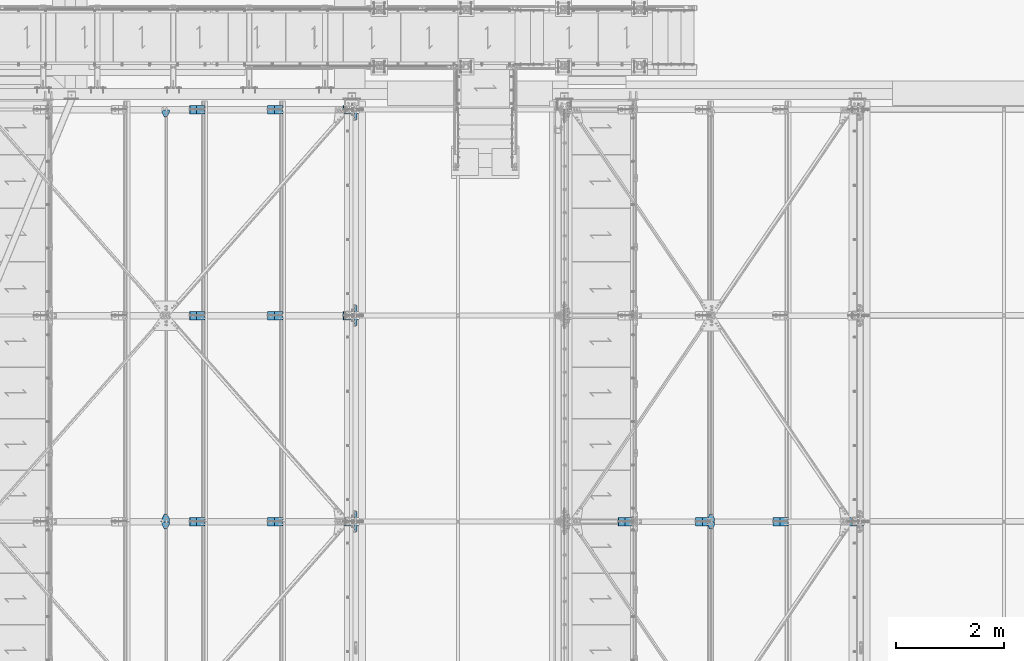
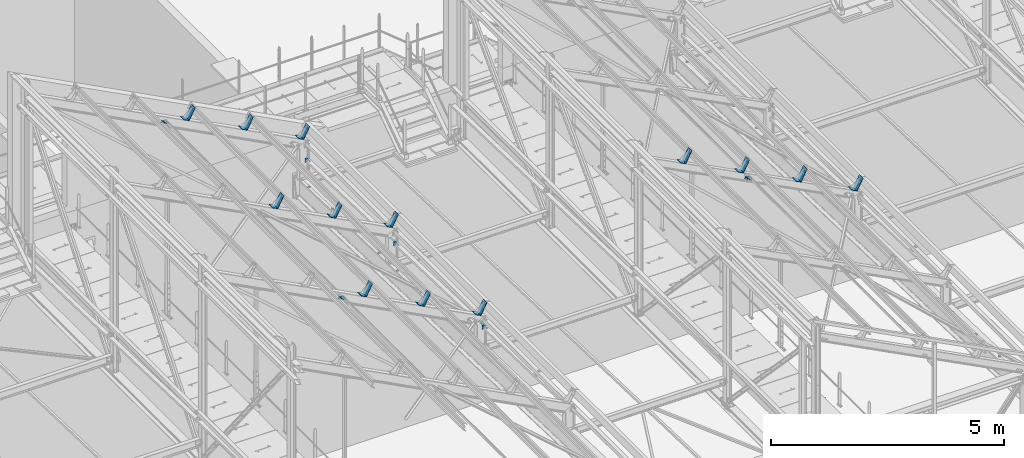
# One storey, part 359 of 362: 23 beams, 23 elements without a shape of their own.
"""IFC2X3 building model written with IfcOpenShell, lengths in millimetres."""

from ifc_helpers import new_model, si_unit, frame, origin_with_axes, place, context, subcontext, project, spatial, faceted_brep, material, type_object, element, aggregate, save


model = new_model("IFC2X3")

# Units and contexts
model_context = context("Model", 3, precision=1e-05, world=origin_with_axes())
body_context = subcontext(model_context, "Body", "Model", "MODEL_VIEW")
ifc_project = project(units=[si_unit("LENGTHUNIT", "METRE", prefix="MILLI"), si_unit("AREAUNIT", "SQUARE_METRE"), si_unit("VOLUMEUNIT", "CUBIC_METRE"), si_unit("MASSUNIT", "GRAM", prefix="KILO"), si_unit("TIMEUNIT", "SECOND"), si_unit("PLANEANGLEUNIT", "RADIAN"), si_unit("SOLIDANGLEUNIT", "STERADIAN"), si_unit("THERMODYNAMICTEMPERATUREUNIT", "DEGREE_CELSIUS"), si_unit("LUMINOUSINTENSITYUNIT", "LUMEN")], contexts=[model_context])

# Site, building, storey
site_placement = place(None, origin_with_axes())
site = spatial("IfcSite", under=ifc_project, at=site_placement, Name="Undefined", CompositionType="ELEMENT")
building_placement = place(site_placement, origin_with_axes())
building = spatial("IfcBuilding", under=site, at=building_placement, Name="Undefined", CompositionType="ELEMENT")
storey_placement = place(building_placement, origin_with_axes())
storey = spatial("IfcBuildingStorey", under=building, at=storey_placement, Name="Undefined", CompositionType="ELEMENT", Elevation=0.0)

# Assembly, beam
assembly_1_placement = place(storey_placement, origin_with_axes())
assembly_1 = element("IfcElementAssembly", 1, at=assembly_1_placement, inside=storey, Name="PANNE SHED", AssemblyPlace="NOTDEFINED", PredefinedType="NOTDEFINED")
ifc_material = material(Name="Undefined/S235-E24")
beam_type_1 = type_object("IfcBeamType", Name="PL10*160", PredefinedType="NOTDEFINED")
beam_1_placement = place(assembly_1_placement, frame((24741.3379399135, 7600.0000408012, 11118.1442296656), z_axis=(0.0, -1.0, 0.0), x_axis=(-0.460093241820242, 0.0, -0.887870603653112)))
beam_1 = element("IfcBeam", 2, at=beam_1_placement, type_object=beam_type_1, material=ifc_material, Name="PANNE SHED", ObjectType="PL10*160", context=body_context, shape_type="Brep", body=[
    faceted_brep([(5.07934601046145e-08, -5.00000000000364, -80.0), (5.081164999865e-08, -5.0, 80.0), (-5.08007360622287e-08, 5.0, 79.9999999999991), (-5.0815287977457e-08, 4.99999999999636, -80.0000000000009), (329.999999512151, 5.00000335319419, 79.99999999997), (329.999999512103, 5.00000335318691, -80.00000000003), (319.999998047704, -4.9999967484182, -80.0000000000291), (319.999998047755, -4.99999674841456, 79.9999999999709), (329.999977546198, -144.999983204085, 79.9999999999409), (329.999977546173, -144.999983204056, -80.0000000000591), (319.999977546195, -144.999981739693, 79.9999999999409), (319.999977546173, -144.999981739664, -80.0000000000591)], [[[0, 1, 2, 3]], [[3, 2, 4, 5]], [[1, 0, 6, 7]], [[5, 4, 8, 9]], [[4, 2, 1, 7, 10, 8]], [[7, 6, 11, 10]], [[6, 0, 3, 5, 9, 11]], [[10, 11, 9, 8]]]),
])
aggregate(assembly_1, [beam_1])

assembly_2_placement = place(storey_placement, origin_with_axes())
assembly_2 = element("IfcElementAssembly", 3, at=assembly_2_placement, inside=storey, Name="PANNE SHED", AssemblyPlace="NOTDEFINED", PredefinedType="NOTDEFINED")
beam_2_placement = place(assembly_2_placement, frame((28981.2587920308, 7600.0000408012, 8921.02348075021), z_axis=(0.0, -1.0, 0.0), x_axis=(-0.460093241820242, 0.0, -0.887870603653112)))
beam_2 = element("IfcBeam", 4, at=beam_2_placement, type_object=beam_type_1, material=ifc_material, Name="PANNE SHED", ObjectType="PL10*160", context=body_context, shape_type="Brep", body=[
    faceted_brep([(5.07934601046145e-08, -5.00000000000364, -80.0), (5.081164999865e-08, -5.0, 80.0), (-5.08007360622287e-08, 5.0, 79.9999999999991), (-5.0815287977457e-08, 4.99999999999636, -80.0000000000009), (329.999999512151, 5.00000335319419, 79.99999999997), (329.999999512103, 5.00000335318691, -80.00000000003), (319.999998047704, -4.9999967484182, -80.0000000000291), (319.999998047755, -4.99999674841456, 79.9999999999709), (329.999977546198, -144.999983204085, 79.9999999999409), (329.999977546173, -144.999983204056, -80.0000000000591), (319.999977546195, -144.999981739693, 79.9999999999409), (319.999977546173, -144.999981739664, -80.0000000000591)], [[[0, 1, 2, 3]], [[3, 2, 4, 5]], [[1, 0, 6, 7]], [[5, 4, 8, 9]], [[4, 2, 1, 7, 10, 8]], [[7, 6, 11, 10]], [[6, 0, 3, 5, 9, 11]], [[10, 11, 9, 8]]]),
])
aggregate(assembly_2, [beam_2])

assembly_3_placement = place(storey_placement, origin_with_axes())
assembly_3 = element("IfcElementAssembly", 5, at=assembly_3_placement, inside=storey, Name="PANNE SHED", AssemblyPlace="NOTDEFINED", PredefinedType="NOTDEFINED")
beam_3_placement = place(assembly_3_placement, frame((27594.5879413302, 7600.0000408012, 9639.5942758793), z_axis=(0.0, -1.0, 0.0), x_axis=(-0.460093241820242, 0.0, -0.887870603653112)))
beam_3 = element("IfcBeam", 6, at=beam_3_placement, type_object=beam_type_1, material=ifc_material, Name="PANNE SHED", ObjectType="PL10*160", context=body_context, shape_type="Brep", body=[
    faceted_brep([(5.07934601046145e-08, -5.00000000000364, -80.0), (5.081164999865e-08, -5.0, 80.0), (-5.08007360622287e-08, 5.0, 79.9999999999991), (-5.0815287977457e-08, 4.99999999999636, -80.0000000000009), (329.999999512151, 5.00000335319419, 79.99999999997), (329.999999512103, 5.00000335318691, -80.00000000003), (319.999998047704, -4.9999967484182, -80.0000000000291), (319.999998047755, -4.99999674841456, 79.9999999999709), (329.999977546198, -144.999983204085, 79.9999999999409), (329.999977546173, -144.999983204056, -80.0000000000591), (319.999977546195, -144.999981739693, 79.9999999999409), (319.999977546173, -144.999981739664, -80.0000000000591)], [[[0, 1, 2, 3]], [[3, 2, 4, 5]], [[1, 0, 6, 7]], [[5, 4, 8, 9]], [[4, 2, 1, 7, 10, 8]], [[7, 6, 11, 10]], [[6, 0, 3, 5, 9, 11]], [[10, 11, 9, 8]]]),
])
aggregate(assembly_3, [beam_3])

assembly_4_placement = place(storey_placement, origin_with_axes())
assembly_4 = element("IfcElementAssembly", 7, at=assembly_4_placement, inside=storey, Name="PANNE SHED", AssemblyPlace="NOTDEFINED", PredefinedType="NOTDEFINED")
beam_4_placement = place(assembly_4_placement, frame((26167.9629406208, 7600.0000408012, 10378.8692527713), z_axis=(0.0, -1.0, 0.0), x_axis=(-0.460093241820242, 0.0, -0.887870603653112)))
beam_4 = element("IfcBeam", 8, at=beam_4_placement, type_object=beam_type_1, material=ifc_material, Name="PANNE SHED", ObjectType="PL10*160", context=body_context, shape_type="Brep", body=[
    faceted_brep([(5.07934601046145e-08, -5.00000000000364, -80.0), (5.081164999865e-08, -5.0, 80.0), (-5.08007360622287e-08, 5.0, 79.9999999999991), (-5.0815287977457e-08, 4.99999999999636, -80.0000000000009), (329.999999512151, 5.00000335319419, 79.99999999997), (329.999999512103, 5.00000335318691, -80.00000000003), (319.999998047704, -4.9999967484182, -80.0000000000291), (319.999998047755, -4.99999674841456, 79.9999999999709), (329.999977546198, -144.999983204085, 79.9999999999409), (329.999977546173, -144.999983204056, -80.0000000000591), (319.999977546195, -144.999981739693, 79.9999999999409), (319.999977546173, -144.999981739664, -80.0000000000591)], [[[0, 1, 2, 3]], [[3, 2, 4, 5]], [[1, 0, 6, 7]], [[5, 4, 8, 9]], [[4, 2, 1, 7, 10, 8]], [[7, 6, 11, 10]], [[6, 0, 3, 5, 9, 11]], [[10, 11, 9, 8]]]),
])
aggregate(assembly_4, [beam_4])

assembly_5_placement = place(storey_placement, origin_with_axes())
assembly_5 = element("IfcElementAssembly", 9, at=assembly_5_placement, inside=storey, Name="PANNE SHED", AssemblyPlace="NOTDEFINED", PredefinedType="NOTDEFINED")
beam_5_placement = place(assembly_5_placement, frame((16836.7918182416, 7600.0000408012, 10404.5379113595), z_axis=(0.0, -1.0, 0.0), x_axis=(-0.463528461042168, 0.0, -0.886082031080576)))
beam_5 = element("IfcBeam", 10, at=beam_5_placement, type_object=beam_type_1, material=ifc_material, Name="PANNE SHED", ObjectType="PL10*160", context=body_context, shape_type="Brep", body=[
    faceted_brep([(5.07934601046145e-08, -5.00000000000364, -80.0), (5.081164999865e-08, -5.0, 80.0), (-5.08007360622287e-08, 5.0, 79.9999999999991), (-5.0815287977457e-08, 4.99999999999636, -80.0000000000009), (329.999999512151, 5.00000335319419, 79.99999999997), (329.999999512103, 5.00000335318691, -80.00000000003), (319.999998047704, -4.9999967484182, -80.0000000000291), (319.999998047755, -4.99999674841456, 79.9999999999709), (330.000011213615, -145.000008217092, 80.0000000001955), (330.000011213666, -145.000008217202, -79.9999999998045), (320.000011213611, -145.000008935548, 80.0000000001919), (320.000011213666, -145.000008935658, -79.9999999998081)], [[[0, 1, 2, 3]], [[3, 2, 4, 5]], [[1, 0, 6, 7]], [[5, 4, 8, 9]], [[4, 2, 1, 7, 10, 8]], [[7, 6, 11, 10]], [[6, 0, 3, 5, 9, 11]], [[10, 11, 9, 8]]]),
])
aggregate(assembly_5, [beam_5])

assembly_6_placement = place(storey_placement, origin_with_axes())
assembly_6 = element("IfcElementAssembly", 11, at=assembly_6_placement, inside=storey, Name="PANNE SHED", AssemblyPlace="NOTDEFINED", PredefinedType="NOTDEFINED")
beam_6_placement = place(assembly_6_placement, frame((18274.0918835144, 7600.0000408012, 9652.65560930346), z_axis=(0.0, -1.0, 0.0), x_axis=(-0.463528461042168, 0.0, -0.886082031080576)))
beam_6 = element("IfcBeam", 12, at=beam_6_placement, type_object=beam_type_1, material=ifc_material, Name="PANNE SHED", ObjectType="PL10*160", context=body_context, shape_type="Brep", body=[
    faceted_brep([(5.07934601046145e-08, -5.00000000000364, -80.0), (5.081164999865e-08, -5.0, 80.0), (-5.08007360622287e-08, 5.0, 79.9999999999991), (-5.0815287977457e-08, 4.99999999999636, -80.0000000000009), (329.999999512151, 5.00000335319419, 79.99999999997), (329.999999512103, 5.00000335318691, -80.00000000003), (319.999998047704, -4.9999967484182, -80.0000000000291), (319.999998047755, -4.99999674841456, 79.9999999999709), (330.000011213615, -145.000008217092, 80.0000000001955), (330.000011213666, -145.000008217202, -79.9999999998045), (320.000011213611, -145.000008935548, 80.0000000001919), (320.000011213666, -145.000008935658, -79.9999999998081)], [[[0, 1, 2, 3]], [[3, 2, 4, 5]], [[1, 0, 6, 7]], [[5, 4, 8, 9]], [[4, 2, 1, 7, 10, 8]], [[7, 6, 11, 10]], [[6, 0, 3, 5, 9, 11]], [[10, 11, 9, 8]]]),
])
aggregate(assembly_6, [beam_6])

assembly_7_placement = place(storey_placement, origin_with_axes())
assembly_7 = element("IfcElementAssembly", 13, at=assembly_7_placement, inside=storey, Name="PANNE SHED", AssemblyPlace="NOTDEFINED", PredefinedType="NOTDEFINED")
beam_7_placement = place(assembly_7_placement, frame((19671.5182330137, 7600.0000408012, 8921.63209792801), z_axis=(0.0, -1.0, 0.0), x_axis=(-0.463528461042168, 0.0, -0.886082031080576)))
beam_7 = element("IfcBeam", 14, at=beam_7_placement, type_object=beam_type_1, material=ifc_material, Name="PANNE SHED", ObjectType="PL10*160", context=body_context, shape_type="Brep", body=[
    faceted_brep([(5.07934601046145e-08, -5.00000000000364, -80.0), (5.081164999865e-08, -5.0, 80.0), (-5.08007360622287e-08, 5.0, 79.9999999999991), (-5.0815287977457e-08, 4.99999999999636, -80.0000000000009), (329.999999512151, 5.00000335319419, 79.99999999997), (329.999999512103, 5.00000335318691, -80.00000000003), (319.999998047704, -4.9999967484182, -80.0000000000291), (319.999998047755, -4.99999674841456, 79.9999999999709), (330.000011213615, -145.000008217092, 80.0000000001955), (330.000011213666, -145.000008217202, -79.9999999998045), (320.000011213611, -145.000008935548, 80.0000000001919), (320.000011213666, -145.000008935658, -79.9999999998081)], [[[0, 1, 2, 3]], [[3, 2, 4, 5]], [[1, 0, 6, 7]], [[5, 4, 8, 9]], [[4, 2, 1, 7, 10, 8]], [[7, 6, 11, 10]], [[6, 0, 3, 5, 9, 11]], [[10, 11, 9, 8]]]),
])
aggregate(assembly_7, [beam_7])

assembly_8_placement = place(storey_placement, origin_with_axes())
assembly_8 = element("IfcElementAssembly", 15, at=assembly_8_placement, inside=storey, Name="PANNE SHED", AssemblyPlace="NOTDEFINED", PredefinedType="NOTDEFINED")
beam_8_placement = place(assembly_8_placement, frame((19671.5182330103, 15200.0000408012, 8921.63209792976), z_axis=(0.0, -1.0, 0.0), x_axis=(-0.463528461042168, 0.0, -0.886082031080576)))
beam_8 = element("IfcBeam", 16, at=beam_8_placement, type_object=beam_type_1, material=ifc_material, Name="PANNE SHED", ObjectType="PL10*160", context=body_context, shape_type="Brep", body=[
    faceted_brep([(5.07934601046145e-08, -5.00000000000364, -80.0), (5.081164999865e-08, -5.0, 80.0), (-5.08007360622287e-08, 5.0, 79.9999999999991), (-5.0815287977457e-08, 4.99999999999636, -80.0000000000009), (329.999999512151, 5.00000335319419, 79.99999999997), (329.999999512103, 5.00000335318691, -80.00000000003), (319.999998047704, -4.9999967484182, -80.0000000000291), (319.999998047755, -4.99999674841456, 79.9999999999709), (330.000011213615, -145.000008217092, 80.0000000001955), (330.000011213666, -145.000008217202, -79.9999999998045), (320.000011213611, -145.000008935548, 80.0000000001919), (320.000011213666, -145.000008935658, -79.9999999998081)], [[[0, 1, 2, 3]], [[3, 2, 4, 5]], [[1, 0, 6, 7]], [[5, 4, 8, 9]], [[4, 2, 1, 7, 10, 8]], [[7, 6, 11, 10]], [[6, 0, 3, 5, 9, 11]], [[10, 11, 9, 8]]]),
])
aggregate(assembly_8, [beam_8])

assembly_9_placement = place(storey_placement, origin_with_axes())
assembly_9 = element("IfcElementAssembly", 17, at=assembly_9_placement, inside=storey, Name="PANNE SHED", AssemblyPlace="NOTDEFINED", PredefinedType="NOTDEFINED")
beam_9_placement = place(assembly_9_placement, frame((18274.0919032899, 15200.0000408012, 9652.65559895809), z_axis=(0.0, -1.0, 0.0), x_axis=(-0.463528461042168, 0.0, -0.886082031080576)))
beam_9 = element("IfcBeam", 18, at=beam_9_placement, type_object=beam_type_1, material=ifc_material, Name="PANNE SHED", ObjectType="PL10*160", context=body_context, shape_type="Brep", body=[
    faceted_brep([(5.07934601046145e-08, -5.00000000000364, -80.0), (5.081164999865e-08, -5.0, 80.0), (-5.08007360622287e-08, 5.0, 79.9999999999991), (-5.0815287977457e-08, 4.99999999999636, -80.0000000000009), (329.999999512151, 5.00000335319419, 79.99999999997), (329.999999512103, 5.00000335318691, -80.00000000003), (319.999998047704, -4.9999967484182, -80.0000000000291), (319.999998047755, -4.99999674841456, 79.9999999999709), (330.000011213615, -145.000008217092, 80.0000000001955), (330.000011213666, -145.000008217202, -79.9999999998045), (320.000011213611, -145.000008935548, 80.0000000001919), (320.000011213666, -145.000008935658, -79.9999999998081)], [[[0, 1, 2, 3]], [[3, 2, 4, 5]], [[1, 0, 6, 7]], [[5, 4, 8, 9]], [[4, 2, 1, 7, 10, 8]], [[7, 6, 11, 10]], [[6, 0, 3, 5, 9, 11]], [[10, 11, 9, 8]]]),
])
aggregate(assembly_9, [beam_9])

assembly_10_placement = place(storey_placement, origin_with_axes())
assembly_10 = element("IfcElementAssembly", 19, at=assembly_10_placement, inside=storey, Name="PANNE SHED", AssemblyPlace="NOTDEFINED", PredefinedType="NOTDEFINED")
beam_10_placement = place(assembly_10_placement, frame((16836.7918380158, 15200.0000408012, 10404.5379010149), z_axis=(0.0, -1.0, 0.0), x_axis=(-0.463528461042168, 0.0, -0.886082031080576)))
beam_10 = element("IfcBeam", 20, at=beam_10_placement, type_object=beam_type_1, material=ifc_material, Name="PANNE SHED", ObjectType="PL10*160", context=body_context, shape_type="Brep", body=[
    faceted_brep([(5.07934601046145e-08, -5.00000000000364, -80.0), (5.081164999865e-08, -5.0, 80.0), (-5.08007360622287e-08, 5.0, 79.9999999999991), (-5.0815287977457e-08, 4.99999999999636, -80.0000000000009), (329.999999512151, 5.00000335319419, 79.99999999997), (329.999999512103, 5.00000335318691, -80.00000000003), (319.999998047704, -4.9999967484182, -80.0000000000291), (319.999998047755, -4.99999674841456, 79.9999999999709), (330.000011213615, -145.000008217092, 80.0000000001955), (330.000011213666, -145.000008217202, -79.9999999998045), (320.000011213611, -145.000008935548, 80.0000000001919), (320.000011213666, -145.000008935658, -79.9999999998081)], [[[0, 1, 2, 3]], [[3, 2, 4, 5]], [[1, 0, 6, 7]], [[5, 4, 8, 9]], [[4, 2, 1, 7, 10, 8]], [[7, 6, 11, 10]], [[6, 0, 3, 5, 9, 11]], [[10, 11, 9, 8]]]),
])
aggregate(assembly_10, [beam_10])

assembly_11_placement = place(storey_placement, origin_with_axes())
assembly_11 = element("IfcElementAssembly", 21, at=assembly_11_placement, inside=storey, Name="PANNE SHED", AssemblyPlace="NOTDEFINED", PredefinedType="NOTDEFINED")
beam_11_placement = place(assembly_11_placement, frame((19671.5182330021, 11400.0000408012, 8921.63209793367), z_axis=(0.0, -1.0, 0.0), x_axis=(-0.463528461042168, 0.0, -0.886082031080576)))
beam_11 = element("IfcBeam", 22, at=beam_11_placement, type_object=beam_type_1, material=ifc_material, Name="PANNE SHED", ObjectType="PL10*160", context=body_context, shape_type="Brep", body=[
    faceted_brep([(5.07934601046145e-08, -5.00000000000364, -80.0), (5.081164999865e-08, -5.0, 80.0), (-5.08007360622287e-08, 5.0, 79.9999999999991), (-5.0815287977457e-08, 4.99999999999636, -80.0000000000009), (329.999999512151, 5.00000335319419, 79.99999999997), (329.999999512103, 5.00000335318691, -80.00000000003), (319.999998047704, -4.9999967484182, -80.0000000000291), (319.999998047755, -4.99999674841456, 79.9999999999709), (330.000011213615, -145.000008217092, 80.0000000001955), (330.000011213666, -145.000008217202, -79.9999999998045), (320.000011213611, -145.000008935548, 80.0000000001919), (320.000011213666, -145.000008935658, -79.9999999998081)], [[[0, 1, 2, 3]], [[3, 2, 4, 5]], [[1, 0, 6, 7]], [[5, 4, 8, 9]], [[4, 2, 1, 7, 10, 8]], [[7, 6, 11, 10]], [[6, 0, 3, 5, 9, 11]], [[10, 11, 9, 8]]]),
])
aggregate(assembly_11, [beam_11])

assembly_12_placement = place(storey_placement, origin_with_axes())
assembly_12 = element("IfcElementAssembly", 23, at=assembly_12_placement, inside=storey, Name="PANNE SHED", AssemblyPlace="NOTDEFINED", PredefinedType="NOTDEFINED")
beam_12_placement = place(assembly_12_placement, frame((18274.0919032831, 11400.0000408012, 9652.65559896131), z_axis=(0.0, -1.0, 0.0), x_axis=(-0.463528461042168, 0.0, -0.886082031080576)))
beam_12 = element("IfcBeam", 24, at=beam_12_placement, type_object=beam_type_1, material=ifc_material, Name="PANNE SHED", ObjectType="PL10*160", context=body_context, shape_type="Brep", body=[
    faceted_brep([(5.07934601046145e-08, -5.00000000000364, -80.0), (5.081164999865e-08, -5.0, 80.0), (-5.08007360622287e-08, 5.0, 79.9999999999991), (-5.0815287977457e-08, 4.99999999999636, -80.0000000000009), (329.999999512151, 5.00000335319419, 79.99999999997), (329.999999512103, 5.00000335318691, -80.00000000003), (319.999998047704, -4.9999967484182, -80.0000000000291), (319.999998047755, -4.99999674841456, 79.9999999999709), (330.000011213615, -145.000008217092, 80.0000000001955), (330.000011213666, -145.000008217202, -79.9999999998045), (320.000011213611, -145.000008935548, 80.0000000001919), (320.000011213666, -145.000008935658, -79.9999999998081)], [[[0, 1, 2, 3]], [[3, 2, 4, 5]], [[1, 0, 6, 7]], [[5, 4, 8, 9]], [[4, 2, 1, 7, 10, 8]], [[7, 6, 11, 10]], [[6, 0, 3, 5, 9, 11]], [[10, 11, 9, 8]]]),
])
aggregate(assembly_12, [beam_12])

assembly_13_placement = place(storey_placement, origin_with_axes())
assembly_13 = element("IfcElementAssembly", 25, at=assembly_13_placement, inside=storey, Name="PANNE SHED", AssemblyPlace="NOTDEFINED", PredefinedType="NOTDEFINED")
beam_13_placement = place(assembly_13_placement, frame((16836.7918380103, 11400.0000408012, 10404.5379010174), z_axis=(0.0, -1.0, 0.0), x_axis=(-0.463528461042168, 0.0, -0.886082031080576)))
beam_13 = element("IfcBeam", 26, at=beam_13_placement, type_object=beam_type_1, material=ifc_material, Name="PANNE SHED", ObjectType="PL10*160", context=body_context, shape_type="Brep", body=[
    faceted_brep([(5.07934601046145e-08, -5.00000000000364, -80.0), (5.081164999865e-08, -5.0, 80.0), (-5.08007360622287e-08, 5.0, 79.9999999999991), (-5.0815287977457e-08, 4.99999999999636, -80.0000000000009), (329.999999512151, 5.00000335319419, 79.99999999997), (329.999999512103, 5.00000335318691, -80.00000000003), (319.999998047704, -4.9999967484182, -80.0000000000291), (319.999998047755, -4.99999674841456, 79.9999999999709), (330.000011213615, -145.000008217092, 80.0000000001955), (330.000011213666, -145.000008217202, -79.9999999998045), (320.000011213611, -145.000008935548, 80.0000000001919), (320.000011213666, -145.000008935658, -79.9999999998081)], [[[0, 1, 2, 3]], [[3, 2, 4, 5]], [[1, 0, 6, 7]], [[5, 4, 8, 9]], [[4, 2, 1, 7, 10, 8]], [[7, 6, 11, 10]], [[6, 0, 3, 5, 9, 11]], [[10, 11, 9, 8]]]),
])
aggregate(assembly_13, [beam_13])

assembly_14_placement = place(storey_placement, origin_with_axes())
assembly_14 = element("IfcElementAssembly", 27, at=assembly_14_placement, inside=storey, AssemblyPlace="NOTDEFINED", PredefinedType="NOTDEFINED")
beam_type_2 = type_object("IfcBeamType", Name="PL6*50", PredefinedType="NOTDEFINED")
beam_14_placement = place(assembly_14_placement, frame((19619.9999999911, 15014.9649832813, 8076.38272820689), z_axis=(1.0, 0.0, 0.0), x_axis=(0.0, 0.99950644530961, -0.0314144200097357)))
beam_14 = element("IfcBeam", 28, at=beam_14_placement, type_object=beam_type_2, material=ifc_material, Name="ATTACHE", ObjectType="PL6*50", context=body_context, shape_type="Brep", body=[
    faceted_brep([(-5.16229192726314e-09, -3.0, -25.0), (-5.16229192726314e-09, -3.0, 25.0), (5.16229192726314e-09, 3.0, 25.0), (5.16229192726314e-09, 3.0, -25.0), (181.530360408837, 2.99999968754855, 25.0), (181.530360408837, 2.99999968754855, -25.0), (175.715977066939, -3.00000030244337, -25.0), (175.715977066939, -3.00000030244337, 25.0), (184.989399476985, -107.055656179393, 25.0), (184.989399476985, -107.055656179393, -25.0), (178.992360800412, -107.244142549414, 25.0), (178.992360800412, -107.244142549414, -25.0)], [[[0, 1, 2, 3]], [[3, 2, 4, 5]], [[1, 0, 6, 7]], [[5, 4, 8, 9]], [[4, 2, 1, 7, 10, 8]], [[7, 6, 11, 10]], [[6, 0, 3, 5, 9, 11]], [[10, 11, 9, 8]]]),
])
aggregate(assembly_14, [beam_14])

assembly_15_placement = place(storey_placement, origin_with_axes())
assembly_15 = element("IfcElementAssembly", 29, at=assembly_15_placement, inside=storey, AssemblyPlace="NOTDEFINED", PredefinedType="NOTDEFINED")
beam_15_placement = place(assembly_15_placement, frame((19619.9999999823, 11406.5000000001, 8082.99910469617), z_axis=(1.0, 0.0, 0.0), x_axis=(0.0, 0.0, 1.0)))
beam_15 = element("IfcBeam", 30, at=beam_15_placement, type_object=beam_type_2, material=ifc_material, Name="ATTACHE", ObjectType="PL6*50", context=body_context, shape_type="Brep", body=[
    faceted_brep([(-5.16229192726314e-09, -3.0, -25.0), (-5.16229192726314e-09, -3.0, 25.0), (5.16229192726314e-09, 3.0, 25.0), (5.16229192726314e-09, 3.0, -25.0), (109.889991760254, 2.99999999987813, 25.0), (109.889991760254, 2.99999999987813, -25.0), (103.698449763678, -3.0000000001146, -25.0), (103.698449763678, -3.0000000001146, 25.0), (104.18733215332, -178.440765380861, 25.0), (104.18733215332, -178.440765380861, -25.0), (98.1902934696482, -178.252279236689, 25.0), (98.1902934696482, -178.252279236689, -25.0)], [[[0, 1, 2, 3]], [[3, 2, 4, 5]], [[1, 0, 6, 7]], [[5, 4, 8, 9]], [[4, 2, 1, 7, 10, 8]], [[7, 6, 11, 10]], [[6, 0, 3, 5, 9, 11]], [[10, 11, 9, 8]]]),
])
aggregate(assembly_15, [beam_15])

assembly_16_placement = place(storey_placement, origin_with_axes())
assembly_16 = element("IfcElementAssembly", 31, at=assembly_16_placement, inside=storey, AssemblyPlace="NOTDEFINED", PredefinedType="NOTDEFINED")
beam_16_placement = place(assembly_16_placement, frame((19619.9999999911, 11214.9649832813, 8195.81325670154), z_axis=(1.0, 0.0, 0.0), x_axis=(0.0, 0.99950644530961, -0.0314144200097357)))
beam_16 = element("IfcBeam", 32, at=beam_16_placement, type_object=beam_type_2, material=ifc_material, Name="ATTACHE", ObjectType="PL6*50", context=body_context, shape_type="Brep", body=[
    faceted_brep([(-5.16229192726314e-09, -3.0, -25.0), (-5.16229192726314e-09, -3.0, 25.0), (5.16229192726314e-09, 3.0, 25.0), (5.16229192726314e-09, 3.0, -25.0), (181.530360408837, 2.99999968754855, 25.0), (181.530360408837, 2.99999968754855, -25.0), (175.715977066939, -3.00000030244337, -25.0), (175.715977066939, -3.00000030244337, 25.0), (184.989399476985, -107.055656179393, 25.0), (184.989399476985, -107.055656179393, -25.0), (178.992360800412, -107.244142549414, 25.0), (178.992360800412, -107.244142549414, -25.0)], [[[0, 1, 2, 3]], [[3, 2, 4, 5]], [[1, 0, 6, 7]], [[5, 4, 8, 9]], [[4, 2, 1, 7, 10, 8]], [[7, 6, 11, 10]], [[6, 0, 3, 5, 9, 11]], [[10, 11, 9, 8]]]),
])
aggregate(assembly_16, [beam_16])

assembly_17_placement = place(storey_placement, origin_with_axes())
assembly_17 = element("IfcElementAssembly", 33, at=assembly_17_placement, inside=storey, AssemblyPlace="NOTDEFINED", PredefinedType="NOTDEFINED")
beam_17_placement = place(assembly_17_placement, frame((19619.9999999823, 7606.50000000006, 8202.43274464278), z_axis=(1.0, 0.0, 0.0), x_axis=(0.0, 0.0, 1.0)))
beam_17 = element("IfcBeam", 34, at=beam_17_placement, type_object=beam_type_2, material=ifc_material, Name="ATTACHE", ObjectType="PL6*50", context=body_context, shape_type="Brep", body=[
    faceted_brep([(-5.16229192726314e-09, -3.0, -25.0), (-5.16229192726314e-09, -3.0, 25.0), (5.16229192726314e-09, 3.0, 25.0), (5.16229192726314e-09, 3.0, -25.0), (109.889991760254, 2.99999999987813, 25.0), (109.889991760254, 2.99999999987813, -25.0), (103.698449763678, -3.0000000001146, -25.0), (103.698449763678, -3.0000000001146, 25.0), (104.18733215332, -178.440765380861, 25.0), (104.18733215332, -178.440765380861, -25.0), (98.1902934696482, -178.252279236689, 25.0), (98.1902934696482, -178.252279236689, -25.0)], [[[0, 1, 2, 3]], [[3, 2, 4, 5]], [[1, 0, 6, 7]], [[5, 4, 8, 9]], [[4, 2, 1, 7, 10, 8]], [[7, 6, 11, 10]], [[6, 0, 3, 5, 9, 11]], [[10, 11, 9, 8]]]),
])
aggregate(assembly_17, [beam_17])

assembly_18_placement = place(storey_placement, origin_with_axes())
assembly_18 = element("IfcElementAssembly", 35, at=assembly_18_placement, inside=storey, AssemblyPlace="NOTDEFINED", PredefinedType="NOTDEFINED")
beam_18_placement = place(assembly_18_placement, frame((19619.9999999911, 7414.96498328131, 8315.24689664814), z_axis=(1.0, 0.0, 0.0), x_axis=(0.0, 0.99950644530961, -0.0314144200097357)))
beam_18 = element("IfcBeam", 36, at=beam_18_placement, type_object=beam_type_2, material=ifc_material, Name="ATTACHE", ObjectType="PL6*50", context=body_context, shape_type="Brep", body=[
    faceted_brep([(-5.16229192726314e-09, -3.0, -25.0), (-5.16229192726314e-09, -3.0, 25.0), (5.16229192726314e-09, 3.0, 25.0), (5.16229192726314e-09, 3.0, -25.0), (181.530360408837, 2.99999968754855, 25.0), (181.530360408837, 2.99999968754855, -25.0), (175.715977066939, -3.00000030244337, -25.0), (175.715977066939, -3.00000030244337, 25.0), (184.989399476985, -107.055656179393, 25.0), (184.989399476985, -107.055656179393, -25.0), (178.992360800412, -107.244142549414, 25.0), (178.992360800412, -107.244142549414, -25.0)], [[[0, 1, 2, 3]], [[3, 2, 4, 5]], [[1, 0, 6, 7]], [[5, 4, 8, 9]], [[4, 2, 1, 7, 10, 8]], [[7, 6, 11, 10]], [[6, 0, 3, 5, 9, 11]], [[10, 11, 9, 8]]]),
])
aggregate(assembly_18, [beam_18])

assembly_19_placement = place(storey_placement, origin_with_axes())
assembly_19 = element("IfcElementAssembly", 37, at=assembly_19_placement, inside=storey, AssemblyPlace="NOTDEFINED", PredefinedType="NOTDEFINED")
beam_type_3 = type_object("IfcBeamType", Name="PL6*150", PredefinedType="NOTDEFINED")
beam_19_placement = place(assembly_19_placement, frame((26173.6240226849, 7740.00025392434, 9888.25206732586), z_axis=(-0.887870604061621, -1.29999898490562e-08, 0.460093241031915), x_axis=(0.0, -1.0, 0.0)))
beam_19 = element("IfcBeam", 38, at=beam_19_placement, type_object=beam_type_3, material=ifc_material, Name="ATTACHE", ObjectType="PL6*150", context=body_context, shape_type="Brep", body=[
    faceted_brep([(86.4999995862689, -2.9999999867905, 75.0000000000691), (86.4999996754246, 3.0000000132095, 75.0000000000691), (-4.78621586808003e-10, 3.00000000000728, 25.0001101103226), (4.37211156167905e-10, -2.99999999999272, 25.0001101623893), (130.999999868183, -2.99999997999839, 75.0000000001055), (130.999998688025, -57.0000008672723, 75.0000000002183), (136.999998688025, -57.0000009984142, 75.0000000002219), (136.999999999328, 3.00000002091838, 75.0000000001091), (130.999999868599, -2.99999997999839, -74.9999999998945), (130.999998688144, -57.0000008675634, -74.9999999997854), (136.999998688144, -57.0000009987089, -74.9999999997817), (136.999999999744, 3.00000002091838, -74.9999999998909), (86.5000004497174, 3.0000000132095, -74.9999999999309), (-4.37211156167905e-10, 3.00000000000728, -24.9998900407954), (4.78621586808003e-10, -2.99999999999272, -24.9998900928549), (86.5000003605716, -2.99999998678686, -74.9999999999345)], [[[0, 1, 2, 3]], [[4, 5, 6, 7, 1, 0]], [[4, 8, 9, 5]], [[5, 9, 10, 6]], [[11, 7, 6, 10]], [[2, 1, 7, 11, 12, 13]], [[3, 2, 13, 14]], [[8, 4, 0, 3, 14, 15]], [[11, 10, 9, 8, 15, 12]], [[14, 13, 12, 15]]]),
])
aggregate(assembly_19, [beam_19])

assembly_20_placement = place(storey_placement, origin_with_axes())
assembly_20 = element("IfcElementAssembly", 39, at=assembly_20_placement, inside=storey, AssemblyPlace="NOTDEFINED", PredefinedType="NOTDEFINED")
beam_20_placement = place(assembly_20_placement, frame((26173.6240268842, 7460.0001509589, 9888.25206732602), z_axis=(-0.887870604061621, -1.29999898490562e-08, 0.460093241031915), x_axis=(0.0, 1.0, 0.0)))
beam_20 = element("IfcBeam", 40, at=beam_20_placement, type_object=beam_type_3, material=ifc_material, Name="ATTACHE", ObjectType="PL6*150", context=body_context, shape_type="Brep", body=[
    faceted_brep([(86.4999995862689, -2.9999999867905, 75.0000000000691), (86.4999996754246, 3.0000000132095, 75.0000000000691), (-4.78621586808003e-10, 3.00000000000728, 25.0001101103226), (4.37211156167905e-10, -2.99999999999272, 25.0001101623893), (136.999999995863, -3.00000002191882, 74.9999999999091), (136.999999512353, 57.000000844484, 74.9999999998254), (130.999999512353, 57.0000007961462, 74.999999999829), (130.999999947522, 2.9999999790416, 74.9999999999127), (130.999999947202, 2.9999999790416, -75.0000000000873), (130.999999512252, 57.0000007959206, -75.0000000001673), (136.999999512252, 57.0000008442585, -75.0000000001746), (136.999999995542, -3.00000002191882, -75.0000000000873), (86.5000003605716, -2.99999998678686, -74.9999999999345), (86.5000004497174, 3.0000000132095, -74.9999999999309), (-4.37211156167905e-10, 3.00000000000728, -24.9998900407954), (4.78621586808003e-10, -2.99999999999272, -24.9998900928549)], [[[0, 1, 2, 3]], [[4, 5, 6, 7, 1, 0]], [[8, 7, 6, 9]], [[5, 10, 9, 6]], [[4, 11, 10, 5]], [[8, 9, 10, 11, 12, 13]], [[2, 1, 7, 8, 13, 14]], [[3, 2, 14, 15]], [[11, 4, 0, 3, 15, 12]], [[15, 14, 13, 12]]]),
])
aggregate(assembly_20, [beam_20])

assembly_21_placement = place(storey_placement, origin_with_axes())
assembly_21 = element("IfcElementAssembly", 41, at=assembly_21_placement, inside=storey, AssemblyPlace="NOTDEFINED", PredefinedType="NOTDEFINED")
beam_21_placement = place(assembly_21_placement, frame((16113.6094357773, 7740.00010300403, 10271.6106900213), z_axis=(-0.886081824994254, 0.0, 0.463528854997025), x_axis=(0.0, -1.0, 0.0)))
beam_21 = element("IfcBeam", 42, at=beam_21_placement, type_object=beam_type_3, material=ifc_material, Name="ATTACHE", ObjectType="PL6*150", context=body_context, shape_type="Brep", body=[
    faceted_brep([(86.4999995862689, -2.9999999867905, 75.0000000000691), (86.4999996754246, 3.0000000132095, 75.0000000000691), (-4.78621586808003e-10, 3.00000000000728, 25.0001101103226), (4.37211156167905e-10, -2.99999999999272, 25.0001101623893), (130.499999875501, -2.99999997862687, 75.0000000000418), (130.499998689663, -57.0000005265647, 75.0000000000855), (136.499998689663, -57.0000006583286, 75.0000000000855), (136.500000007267, 3.00000002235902, 75.0000000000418), (130.499999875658, -2.99999997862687, -74.9999999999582), (130.499998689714, -57.0000005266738, -74.9999999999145), (136.499998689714, -57.0000006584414, -74.9999999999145), (136.500000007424, 3.00000002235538, -74.9999999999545), (86.5000004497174, 3.0000000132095, -74.9999999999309), (-4.37211156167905e-10, 3.00000000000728, -24.9998900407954), (4.78621586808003e-10, -2.99999999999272, -24.9998900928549), (86.5000003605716, -2.99999998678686, -74.9999999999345)], [[[0, 1, 2, 3]], [[4, 5, 6, 7, 1, 0]], [[4, 8, 9, 5]], [[5, 9, 10, 6]], [[11, 7, 6, 10]], [[2, 1, 7, 11, 12, 13]], [[3, 2, 13, 14]], [[8, 4, 0, 3, 14, 15]], [[11, 10, 9, 8, 15, 12]], [[14, 13, 12, 15]]]),
])
aggregate(assembly_21, [beam_21])

assembly_22_placement = place(storey_placement, origin_with_axes())
assembly_22 = element("IfcElementAssembly", 43, at=assembly_22_placement, inside=storey, AssemblyPlace="NOTDEFINED", PredefinedType="NOTDEFINED")
beam_22_placement = place(assembly_22_placement, frame((16113.6094399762, 7460.00000003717, 10271.610690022), z_axis=(-0.886082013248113, 9.38091927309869e-07, 0.463528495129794), x_axis=(0.0, 1.0, 0.0)))
beam_22 = element("IfcBeam", 44, at=beam_22_placement, type_object=beam_type_3, material=ifc_material, Name="ATTACHE", ObjectType="PL6*150", context=body_context, shape_type="Brep", body=[
    faceted_brep([(86.4999995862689, -2.9999999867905, 75.0000000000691), (86.4999996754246, 3.0000000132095, 75.0000000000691), (-4.78621586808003e-10, 3.00000000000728, 25.0001101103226), (4.37211156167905e-10, -2.99999999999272, 25.0001101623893), (136.500000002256, -3.00000002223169, 75.0000000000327), (136.499999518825, 57.0000005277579, 75.0000000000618), (130.499999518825, 57.0000004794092, 75.0000000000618), (130.499999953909, 2.99999997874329, 75.0000000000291), (130.499999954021, 2.99999997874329, -74.9999999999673), (130.49999951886, 57.0000004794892, -74.9999999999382), (136.49999951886, 57.000000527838, -74.9999999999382), (136.500000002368, -3.00000002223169, -74.9999999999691), (86.5000003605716, -2.99999998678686, -74.9999999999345), (86.5000004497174, 3.0000000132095, -74.9999999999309), (-4.37211156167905e-10, 3.00000000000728, -24.9998900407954), (4.78621586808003e-10, -2.99999999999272, -24.9998900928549)], [[[0, 1, 2, 3]], [[4, 5, 6, 7, 1, 0]], [[8, 7, 6, 9]], [[5, 10, 9, 6]], [[4, 11, 10, 5]], [[8, 9, 10, 11, 12, 13]], [[2, 1, 7, 8, 13, 14]], [[3, 2, 14, 15]], [[11, 4, 0, 3, 15, 12]], [[15, 14, 13, 12]]]),
])
aggregate(assembly_22, [beam_22])

assembly_23_placement = place(storey_placement, origin_with_axes())
assembly_23 = element("IfcElementAssembly", 45, at=assembly_23_placement, inside=storey, AssemblyPlace="NOTDEFINED", PredefinedType="NOTDEFINED")
beam_23_placement = place(assembly_23_placement, frame((16113.6094154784, 15060.0000000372, 10271.6106431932), z_axis=(-0.886082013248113, 9.38091927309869e-07, 0.463528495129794), x_axis=(0.0, 1.0, 0.0)))
beam_23 = element("IfcBeam", 46, at=beam_23_placement, type_object=beam_type_3, material=ifc_material, Name="ATTACHE", ObjectType="PL6*150", context=body_context, shape_type="Brep", body=[
    faceted_brep([(86.4999995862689, -2.9999999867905, 75.0000000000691), (86.4999996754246, 3.0000000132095, 75.0000000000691), (-4.78621586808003e-10, 3.00000000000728, 25.0001101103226), (4.37211156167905e-10, -2.99999999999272, 25.0001101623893), (136.500000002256, -3.00000002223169, 75.0000000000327), (136.499999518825, 57.0000005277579, 75.0000000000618), (130.499999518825, 57.0000004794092, 75.0000000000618), (130.499999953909, 2.99999997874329, 75.0000000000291), (130.499999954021, 2.99999997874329, -74.9999999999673), (130.49999951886, 57.0000004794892, -74.9999999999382), (136.49999951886, 57.000000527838, -74.9999999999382), (136.500000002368, -3.00000002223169, -74.9999999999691), (86.5000003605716, -2.99999998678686, -74.9999999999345), (86.5000004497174, 3.0000000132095, -74.9999999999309), (-4.37211156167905e-10, 3.00000000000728, -24.9998900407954), (4.78621586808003e-10, -2.99999999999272, -24.9998900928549)], [[[0, 1, 2, 3]], [[4, 5, 6, 7, 1, 0]], [[8, 7, 6, 9]], [[5, 10, 9, 6]], [[4, 11, 10, 5]], [[8, 9, 10, 11, 12, 13]], [[2, 1, 7, 8, 13, 14]], [[3, 2, 14, 15]], [[11, 4, 0, 3, 15, 12]], [[15, 14, 13, 12]]]),
])
aggregate(assembly_23, [beam_23])

save(model, "model.ifc")
